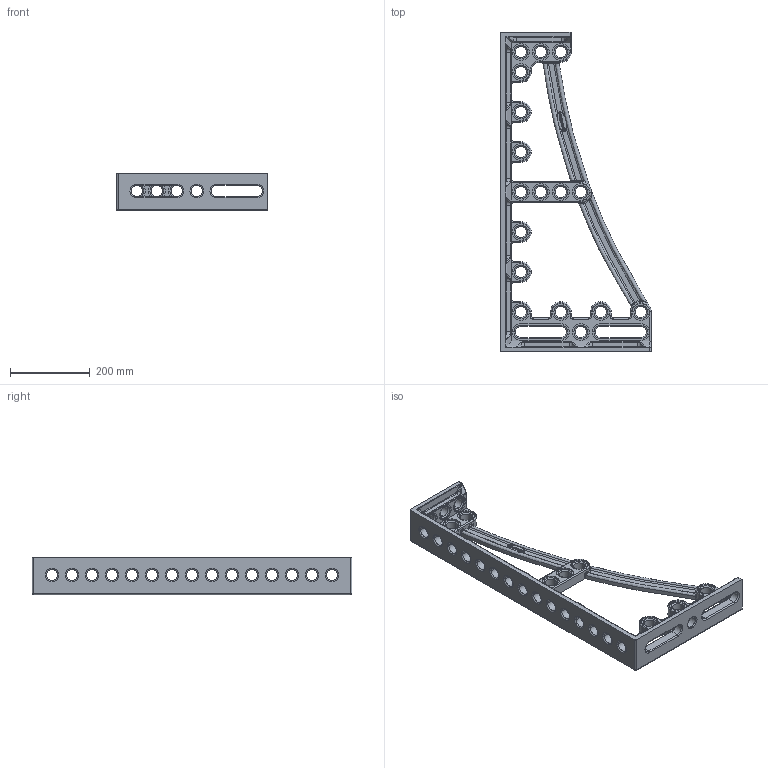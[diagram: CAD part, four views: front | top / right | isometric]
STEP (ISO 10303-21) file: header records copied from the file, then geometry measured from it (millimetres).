
FILE_DESCRIPTION (( 'STEP AP203' ), '1' );
FILE_NAME ('280146_800.step', '2014-08-11T18:20:01', ( 'User' ), ( '' ), 'SwSTEP 2.0', 'SolidWorks 2014', '' );
FILE_SCHEMA (( 'CONFIG_CONTROL_DESIGN' ));
Length unit declared in the file: millimetre
Products named in the file (1): 280146_800
Bounding box: 376 x 800 x 95 mm (x, y, z)
Volume: 3722467.5 mm3; surface area: 546041 mm2
Topology: 1 solids, 1 shells, 994 faces, 2405 edges, 1445 vertices
Faces by surface type: cylinder 347, bspline 206, plane 188, torus 175, cone 72, sphere 6
Entity records: 37837 total; most frequent: CARTESIAN_POINT 15338, ORIENTED_EDGE 4774, DIRECTION 4639, EDGE_CURVE 2387, AXIS2_PLACEMENT_3D 1887, VERTEX_POINT 1445, EDGE_LOOP 1128, CIRCLE 1098
